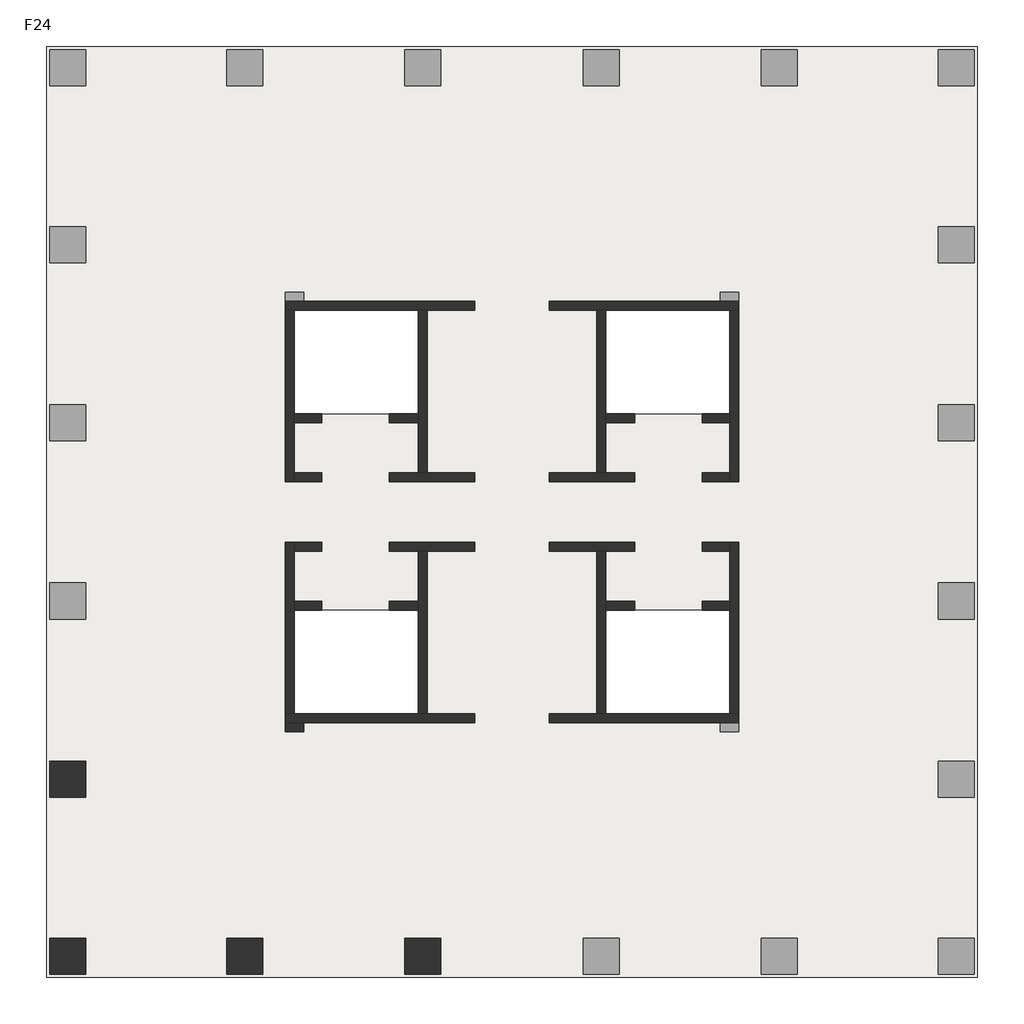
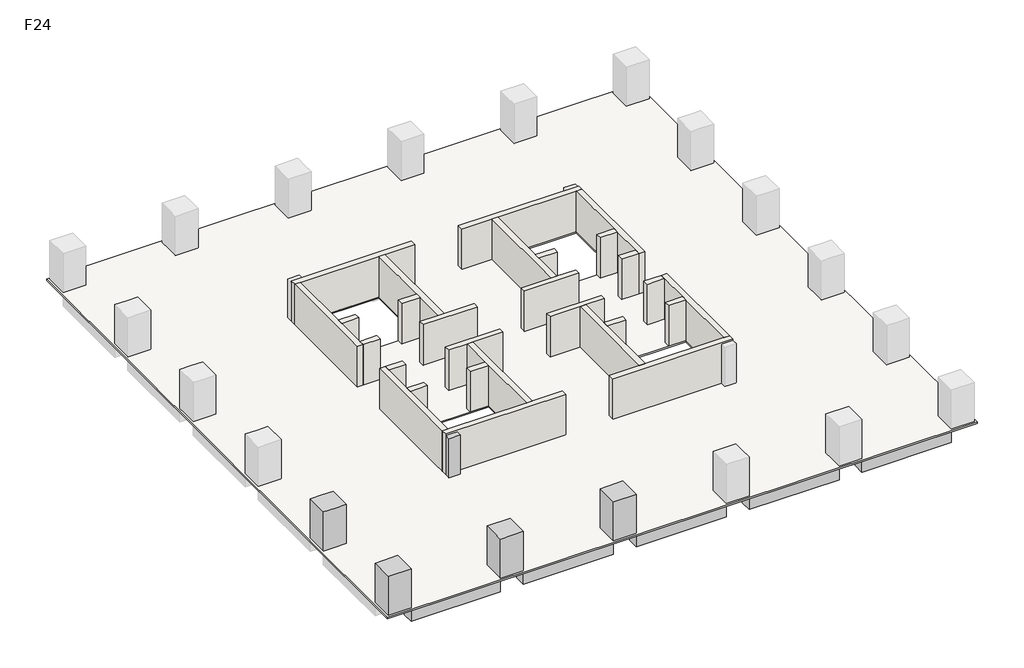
# One storey, part 1 of 2: 28 walls, 5 columns, 3 beams, 1 slab.
"""IFC4 building model written with IfcOpenShell, lengths in millimetres."""

from ifc_helpers import new_model, si_unit, frame, origin, place, context, project, spatial, polyline, outline, extrude, faceted_brep, element, save

model = new_model("IFC4")

# Units and contexts
model_context = context("Model", 3, world=origin())
ifc_project = project(units=[si_unit("LENGTHUNIT", "METRE", prefix="MILLI")], contexts=[model_context])

# Site, building, storey
site = spatial("IfcSite", under=ifc_project)
building = spatial("IfcBuilding", under=site)
storey = spatial("IfcBuildingStorey", under=building, Name="F24", Elevation=90000.0)

# Beams
placement = place(None, origin())
element("IfcBeam", 1, ObjectType="混凝土 - 矩形梁 : KL(5)-800x1000", at=placement, inside=storey, context=model_context, shape_type="SweptSolid", body=[
    extrude(outline(polyline([(-12472.6742169, -13948.9501342), (-12472.6742169, -13148.9501342), (-6222.6742169, -13148.9501342), (-6222.6742169, -13948.9501342), (-12472.6742169, -13948.9501342)])), frame((0.0, 0.0, 89000.0), z_axis=(0.0, 0.0, 1.0), x_axis=(1.0, 0.0, 0.0)), (0.0, 0.0, 1.0), 900.0),
    extrude(outline(polyline([(25327.3257831, -13148.9501342), (25327.3257831, -13948.9501342), (19077.3257831, -13948.9501342), (19077.3257831, -13148.9501342), (25327.3257831, -13148.9501342)])), frame((0.0, 0.0, 89000.0), z_axis=(0.0, 0.0, 1.0), x_axis=(1.0, 0.0, 0.0)), (0.0, 0.0, 1.0), 900.0),
    extrude(outline(polyline([(-4622.6742169, -13948.9501342), (-4622.6742169, -13148.9501342), (1677.3257831, -13148.9501342), (1677.3257831, -13948.9501342), (-4622.6742169, -13948.9501342)])), frame((0.0, 0.0, 89000.0), z_axis=(0.0, 0.0, 1.0), x_axis=(1.0, 0.0, 0.0)), (0.0, 0.0, 1.0), 900.0),
    extrude(outline(polyline([(3277.3257831, -13948.9501342), (3277.3257831, -13148.9501342), (9577.3257831, -13148.9501342), (9577.3257831, -13948.9501342), (3277.3257831, -13948.9501342)])), frame((0.0, 0.0, 89000.0), z_axis=(0.0, 0.0, 1.0), x_axis=(1.0, 0.0, 0.0)), (0.0, 0.0, 1.0), 900.0),
    extrude(outline(polyline([(11177.3257831, -13948.9501342), (11177.3257831, -13148.9501342), (17477.3257831, -13148.9501342), (17477.3257831, -13948.9501342), (11177.3257831, -13948.9501342)])), frame((0.0, 0.0, 89000.0), z_axis=(0.0, 0.0, 1.0), x_axis=(1.0, 0.0, 0.0)), (0.0, 0.0, 1.0), 900.0),
])
element("IfcBeam", 2, ObjectType="混凝土 - 矩形梁 : L1-800x500", at=placement, inside=storey, context=model_context, shape_type="Brep", body=[
    faceted_brep([(-12472.6742169, -5512.1353397, 89500.0), (-3746.9473979, -3341.556529, 89500.0), (-3173.6696907, -3198.9501342, 89500.0), (-3173.6696907, -3198.9501342, 89900.0), (-3746.9473979, -3341.556529, 89900.0), (-12472.6742169, -5512.1353397, 89900.0), (-3622.6742169, -3198.9501342, 89500.0), (-12472.6742169, -4687.7549784, 89500.0), (-3622.6742169, -2486.2624411, 89500.0), (-3622.6742169, -2798.9501342, 89500.0), (-12472.6742169, -4687.7549784, 89900.0), (-3622.6742169, -2486.2624411, 89900.0), (-3622.6742169, -3198.9501342, 89900.0)], [[[0, 1, 2, 3, 4, 5]], [[6, 2, 1, 0, 7, 8, 9]], [[8, 7, 10, 11]], [[2, 6, 12, 3]], [[9, 8, 11, 12, 6]], [[7, 0, 5, 10]], [[5, 4, 3, 12, 11, 10]]]),
])
element("IfcBeam", 3, ObjectType="混凝土 - 矩形梁 : L1-800x500", at=placement, inside=storey, context=model_context, shape_type="SweptSolid", body=[
    extrude(outline(polyline([(-3746.9473979, -3341.556529), (-3173.6696907, -3198.9501342), (-2898.7618154, -3198.9501342), (-4843.6893517, -12348.9501342), (-5661.5624638, -12348.9501342), (-3746.9473979, -3341.556529)])), frame((0.0, 0.0, 89500.0), z_axis=(0.0, 0.0, 1.0), x_axis=(1.0, 0.0, 0.0)), (0.0, 0.0, 1.0), 400.0),
])

# Columns
element("IfcColumn", 4, ObjectType="混凝土 - 矩形 - 柱 : Z1-1600x1600", at=placement, inside=storey, context=model_context, shape_type="Brep", body=[
    faceted_brep([(-12472.6742169, -4498.9501342, 90000.0), (-12472.6742169, -6098.9501342, 90000.0), (-14072.6742169, -6098.9501342, 90000.0), (-14072.6742169, -4498.9501342, 90000.0), (-12472.6742169, -4498.9501342, 92900.0), (-12472.6742169, -6098.9501342, 92900.0), (-13272.6742169, -6098.9501342, 92900.0), (-14072.6742169, -6098.9501342, 92900.0), (-14072.6742169, -6098.9501342, 92000.0), (-14072.6742169, -4498.9501342, 92900.0), (-14072.6742169, -4498.9501342, 92000.0), (-13272.6742169, -4498.9501342, 92900.0)], [[[0, 1, 2, 3]], [[1, 0, 4, 5]], [[2, 1, 5, 6, 7, 8]], [[3, 2, 8, 7, 9, 10]], [[0, 3, 10, 9, 11, 4]], [[5, 4, 11, 9, 7, 6]]]),
])
element("IfcColumn", 5, ObjectType="混凝土 - 矩形 - 柱 : Z1-1600x1600", at=placement, inside=storey, context=model_context, shape_type="SweptSolid", body=[
    extrude(outline(polyline([(-12472.6742169, -12348.9501342), (-12472.6742169, -13948.9501342), (-14072.6742169, -13948.9501342), (-14072.6742169, -12348.9501342), (-12472.6742169, -12348.9501342)])), frame((0.0, 0.0, 90000.0), z_axis=(0.0, 0.0, 1.0), x_axis=(1.0, 0.0, 0.0)), (0.0, 0.0, 1.0), 2900.0),
])
element("IfcColumn", 6, ObjectType="混凝土 - 矩形 - 柱 : Z1-1600x1600", at=placement, inside=storey, context=model_context, shape_type="Brep", body=[
    faceted_brep([(-4622.6742169, -12348.9501342, 90000.0), (-4622.6742169, -13948.9501342, 90000.0), (-6222.6742169, -13948.9501342, 90000.0), (-6222.6742169, -12348.9501342, 90000.0), (-4622.6742169, -12348.9501342, 92900.0), (-4622.6742169, -13148.9501342, 92900.0), (-4622.6742169, -13948.9501342, 92900.0), (-4622.6742169, -13948.9501342, 92000.0), (-6222.6742169, -13948.9501342, 92900.0), (-6222.6742169, -13948.9501342, 92000.0), (-6222.6742169, -13148.9501342, 92900.0), (-6222.6742169, -12348.9501342, 92900.0)], [[[0, 1, 2, 3]], [[1, 0, 4, 5, 6, 7]], [[2, 1, 7, 6, 8, 9]], [[3, 2, 9, 8, 10, 11]], [[0, 3, 11, 4]], [[6, 5, 4, 11, 10, 8]]]),
])
element("IfcColumn", 7, ObjectType="混凝土 - 矩形 - 柱 : Z1-1600x1600", at=placement, inside=storey, context=model_context, shape_type="Brep", body=[
    faceted_brep([(3277.3257831, -12348.9501342, 90000.0), (3277.3257831, -13948.9501342, 90000.0), (1677.3257831, -13948.9501342, 90000.0), (1677.3257831, -12348.9501342, 90000.0), (3277.3257831, -12348.9501342, 92900.0), (3277.3257831, -13148.9501342, 92900.0), (3277.3257831, -13948.9501342, 92900.0), (3277.3257831, -13948.9501342, 92000.0), (1677.3257831, -13948.9501342, 92900.0), (1677.3257831, -13948.9501342, 92000.0), (1677.3257831, -13148.9501342, 92900.0), (1677.3257831, -12348.9501342, 92900.0)], [[[0, 1, 2, 3]], [[1, 0, 4, 5, 6, 7]], [[2, 1, 7, 6, 8, 9]], [[3, 2, 9, 8, 10, 11]], [[0, 3, 11, 4]], [[6, 5, 4, 11, 10, 8]]]),
])
element("IfcColumn", 8, ObjectType="混凝土 - 矩形 - 柱 : Z2-800x800", at=placement, inside=storey, context=model_context, shape_type="SweptSolid", body=[
    extrude(outline(polyline([(-2822.6742169, -3198.9501342), (-3622.6742169, -3198.9501342), (-3622.6742169, -2798.9501342), (-2822.6742169, -2798.9501342), (-2822.6742169, -3198.9501342)])), frame((0.0, 0.0, 90000.0), z_axis=(0.0, 0.0, 1.0), x_axis=(1.0, 0.0, 0.0)), (0.0, 0.0, 1.0), 2900.0),
])

# Slab
element("IfcSlab", 9, ObjectType="LB-100", at=placement, inside=storey, context=model_context, shape_type="SweptSolid", body=[
    extrude(outline(polyline([(27077.3257831, 27201.0498658), (27077.3257831, -14085.2672073), (-14222.6742169, -14085.2672073), (-14222.6742169, 27201.0498658), (27077.3257831, 27201.0498658)]), holes=[polyline([(2277.3257831, 15501.0498658), (-3222.6742169, 15501.0498658), (-3222.6742169, 10901.0498658), (2277.3257831, 10901.0498658), (2277.3257831, 15501.0498658)]), polyline([(2277.3257831, 2201.0498658), (-3222.6742169, 2201.0498658), (-3222.6742169, -2398.9501342), (2277.3257831, -2398.9501342), (2277.3257831, 2201.0498658)]), polyline([(16077.3257831, 2201.0498658), (10577.3257831, 2201.0498658), (10577.3257831, -2398.9501342), (16077.3257831, -2398.9501342), (16077.3257831, 2201.0498658)]), polyline([(16077.3257831, 15501.0498658), (10577.3257831, 15501.0498658), (10577.3257831, 10901.0498658), (16077.3257831, 10901.0498658), (16077.3257831, 15501.0498658)])]), frame((0.0, 0.0, 89900.0), z_axis=(0.0, 0.0, 1.0), x_axis=(1.0, 0.0, 0.0)), (0.0, 0.0, 1.0), 100.0),
])

# Walls
element("IfcWall", 10, ObjectType="剪力墙-400", at=placement, inside=storey, context=model_context, shape_type="Brep", body=[
    faceted_brep([(-3622.6742169, 15501.0498658, 90000.0), (-3222.6742169, 15501.0498658, 90000.0), (2277.3257831, 15501.0498658, 90000.0), (2677.3257831, 15501.0498658, 90000.0), (4777.3257831, 15501.0498658, 90000.0), (4777.3257831, 15501.0498658, 93000.0), (2677.3257831, 15501.0498658, 93000.0), (2277.3257831, 15501.0498658, 93000.0), (-3222.6742169, 15501.0498658, 93000.0), (-3622.6742169, 15501.0498658, 93000.0), (-3622.6742169, 15901.0498658, 90000.0), (-3622.6742169, 15901.0498658, 92900.0), (-3622.6742169, 15901.0498658, 93000.0), (4777.3257831, 15901.0498658, 93000.0), (4777.3257831, 15901.0498658, 90000.0), (-2822.6742169, 15901.0498658, 90000.0)], [[[0, 1, 2, 3, 4, 5, 6, 7, 8, 9]], [[10, 11, 12, 13, 14, 15]], [[4, 3, 2, 1, 0, 10, 15, 14]], [[5, 4, 14, 13]], [[9, 8, 7, 6, 5, 13, 12]], [[0, 9, 12, 11, 10]]]),
])
element("IfcWall", 11, ObjectType="剪力墙-400", at=placement, inside=storey, context=model_context, shape_type="Brep", body=[
    faceted_brep([(2277.3257831, 15501.0498658, 90000.0), (2277.3257831, 10901.0498658, 90000.0), (2277.3257831, 10501.0498658, 90000.0), (2277.3257831, 8301.0498658, 90000.0), (2277.3257831, 8301.0498658, 93000.0), (2277.3257831, 10501.0498658, 93000.0), (2277.3257831, 10901.0498658, 93000.0), (2277.3257831, 15501.0498658, 93000.0), (2677.3257831, 15501.0498658, 90000.0), (2677.3257831, 15501.0498658, 93000.0), (2677.3257831, 8301.0498658, 93000.0), (2677.3257831, 8301.0498658, 90000.0)], [[[0, 1, 2, 3, 4, 5, 6, 7]], [[8, 9, 10, 11]], [[3, 2, 1, 0, 8, 11]], [[7, 6, 5, 4, 10, 9]], [[0, 7, 9, 8]], [[4, 3, 11, 10]]]),
])
element("IfcWall", 12, ObjectType="剪力墙-400", at=placement, inside=storey, context=model_context, shape_type="Brep", body=[
    faceted_brep([(-3622.6742169, 15501.0498658, 90000.0), (-3622.6742169, 7901.0498658, 90000.0), (-3622.6742169, 7901.0498658, 93000.0), (-3622.6742169, 15501.0498658, 93000.0), (-3222.6742169, 15501.0498658, 90000.0), (-3222.6742169, 15501.0498658, 93000.0), (-3222.6742169, 10901.0498658, 93000.0), (-3222.6742169, 10501.0498658, 93000.0), (-3222.6742169, 8301.0498658, 93000.0), (-3222.6742169, 7901.0498658, 93000.0), (-3222.6742169, 7901.0498658, 90000.0), (-3222.6742169, 8301.0498658, 90000.0), (-3222.6742169, 10501.0498658, 90000.0), (-3222.6742169, 10901.0498658, 90000.0)], [[[0, 1, 2, 3]], [[4, 5, 6, 7, 8, 9, 10, 11, 12, 13]], [[1, 0, 4, 13, 12, 11, 10]], [[3, 2, 9, 8, 7, 6, 5]], [[0, 3, 5, 4]], [[2, 1, 10, 9]]]),
])
element("IfcWall", 13, ObjectType="剪力墙-400", at=placement, inside=storey, context=model_context, shape_type="SweptSolid", body=[
    extrude(outline(polyline([(-2022.6742169, 7901.0498658), (-3222.6742169, 7901.0498658), (-3222.6742169, 8301.0498658), (-2022.6742169, 8301.0498658), (-2022.6742169, 7901.0498658)])), frame((0.0, 0.0, 90000.0), z_axis=(0.0, 0.0, 1.0), x_axis=(1.0, 0.0, 0.0)), (0.0, 0.0, 1.0), 3000.0),
])
element("IfcWall", 14, ObjectType="剪力墙-400", at=placement, inside=storey, context=model_context, shape_type="Brep", body=[
    faceted_brep([(977.3257831, 7901.0498658, 90000.0), (4777.3257831, 7901.0498658, 90000.0), (4777.3257831, 7901.0498658, 93000.0), (977.3257831, 7901.0498658, 93000.0), (977.3257831, 8301.0498658, 90000.0), (977.3257831, 8301.0498658, 93000.0), (2277.3257831, 8301.0498658, 93000.0), (2677.3257831, 8301.0498658, 93000.0), (4777.3257831, 8301.0498658, 93000.0), (4777.3257831, 8301.0498658, 90000.0), (2677.3257831, 8301.0498658, 90000.0), (2277.3257831, 8301.0498658, 90000.0)], [[[0, 1, 2, 3]], [[4, 5, 6, 7, 8, 9, 10, 11]], [[1, 0, 4, 11, 10, 9]], [[2, 1, 9, 8]], [[3, 2, 8, 7, 6, 5]], [[0, 3, 5, 4]]]),
])
element("IfcWall", 15, ObjectType="剪力墙-400", at=placement, inside=storey, context=model_context, shape_type="SweptSolid", body=[
    extrude(outline(polyline([(-2022.6742169, 10501.0498658), (-3222.6742169, 10501.0498658), (-3222.6742169, 10901.0498658), (-2022.6742169, 10901.0498658), (-2022.6742169, 10501.0498658)])), frame((0.0, 0.0, 90000.0), z_axis=(0.0, 0.0, 1.0), x_axis=(1.0, 0.0, 0.0)), (0.0, 0.0, 1.0), 3000.0),
])
element("IfcWall", 16, ObjectType="剪力墙-400", at=placement, inside=storey, context=model_context, shape_type="SweptSolid", body=[
    extrude(outline(polyline([(2277.3257831, 10501.0498658), (977.3257831, 10501.0498658), (977.3257831, 10901.0498658), (2277.3257831, 10901.0498658), (2277.3257831, 10501.0498658)])), frame((0.0, 0.0, 90000.0), z_axis=(0.0, 0.0, 1.0), x_axis=(1.0, 0.0, 0.0)), (0.0, 0.0, 1.0), 3000.0),
])
element("IfcWall", 17, ObjectType="剪力墙-400", at=placement, inside=storey, context=model_context, shape_type="Brep", body=[
    faceted_brep([(16477.3257831, 15901.0498658, 90000.0), (15677.3257831, 15901.0498658, 90000.0), (8077.3257831, 15901.0498658, 90000.0), (8077.3257831, 15901.0498658, 93000.0), (16477.3257831, 15901.0498658, 93000.0), (16477.3257831, 15901.0498658, 92900.0), (16477.3257831, 15501.0498658, 90000.0), (16477.3257831, 15501.0498658, 93000.0), (16077.3257831, 15501.0498658, 93000.0), (10577.3257831, 15501.0498658, 93000.0), (10177.3257831, 15501.0498658, 93000.0), (8077.3257831, 15501.0498658, 93000.0), (8077.3257831, 15501.0498658, 90000.0), (10177.3257831, 15501.0498658, 90000.0), (10577.3257831, 15501.0498658, 90000.0), (16077.3257831, 15501.0498658, 90000.0)], [[[0, 1, 2, 3, 4, 5]], [[6, 7, 8, 9, 10, 11, 12, 13, 14, 15]], [[2, 1, 0, 6, 15, 14, 13, 12]], [[3, 2, 12, 11]], [[4, 3, 11, 10, 9, 8, 7]], [[0, 5, 4, 7, 6]]]),
])
element("IfcWall", 18, ObjectType="剪力墙-400", at=placement, inside=storey, context=model_context, shape_type="Brep", body=[
    faceted_brep([(10177.3257831, 15501.0498658, 90000.0), (10177.3257831, 8301.0498658, 90000.0), (10177.3257831, 8301.0498658, 93000.0), (10177.3257831, 15501.0498658, 93000.0), (10577.3257831, 15501.0498658, 90000.0), (10577.3257831, 15501.0498658, 93000.0), (10577.3257831, 10901.0498658, 93000.0), (10577.3257831, 10501.0498658, 93000.0), (10577.3257831, 8301.0498658, 93000.0), (10577.3257831, 8301.0498658, 90000.0), (10577.3257831, 10501.0498658, 90000.0), (10577.3257831, 10901.0498658, 90000.0)], [[[0, 1, 2, 3]], [[4, 5, 6, 7, 8, 9, 10, 11]], [[1, 0, 4, 11, 10, 9]], [[3, 2, 8, 7, 6, 5]], [[0, 3, 5, 4]], [[2, 1, 9, 8]]]),
])
element("IfcWall", 19, ObjectType="剪力墙-400", at=placement, inside=storey, context=model_context, shape_type="Brep", body=[
    faceted_brep([(16077.3257831, 15501.0498658, 90000.0), (16077.3257831, 10901.0498658, 90000.0), (16077.3257831, 10501.0498658, 90000.0), (16077.3257831, 8301.0498658, 90000.0), (16077.3257831, 7901.0498658, 90000.0), (16077.3257831, 7901.0498658, 93000.0), (16077.3257831, 8301.0498658, 93000.0), (16077.3257831, 10501.0498658, 93000.0), (16077.3257831, 10901.0498658, 93000.0), (16077.3257831, 15501.0498658, 93000.0), (16477.3257831, 15501.0498658, 90000.0), (16477.3257831, 15501.0498658, 93000.0), (16477.3257831, 7901.0498658, 93000.0), (16477.3257831, 7901.0498658, 90000.0)], [[[0, 1, 2, 3, 4, 5, 6, 7, 8, 9]], [[10, 11, 12, 13]], [[4, 3, 2, 1, 0, 10, 13]], [[9, 8, 7, 6, 5, 12, 11]], [[0, 9, 11, 10]], [[5, 4, 13, 12]]]),
])
element("IfcWall", 20, ObjectType="剪力墙-400", at=placement, inside=storey, context=model_context, shape_type="SweptSolid", body=[
    extrude(outline(polyline([(14877.3257831, 8301.0498658), (16077.3257831, 8301.0498658), (16077.3257831, 7901.0498658), (14877.3257831, 7901.0498658), (14877.3257831, 8301.0498658)])), frame((0.0, 0.0, 90000.0), z_axis=(0.0, 0.0, 1.0), x_axis=(1.0, 0.0, 0.0)), (0.0, 0.0, 1.0), 3000.0),
])
element("IfcWall", 21, ObjectType="剪力墙-400", at=placement, inside=storey, context=model_context, shape_type="Brep", body=[
    faceted_brep([(11877.3257831, 8301.0498658, 90000.0), (10577.3257831, 8301.0498658, 90000.0), (10177.3257831, 8301.0498658, 90000.0), (8077.3257831, 8301.0498658, 90000.0), (8077.3257831, 8301.0498658, 93000.0), (10177.3257831, 8301.0498658, 93000.0), (10577.3257831, 8301.0498658, 93000.0), (11877.3257831, 8301.0498658, 93000.0), (11877.3257831, 7901.0498658, 90000.0), (11877.3257831, 7901.0498658, 93000.0), (8077.3257831, 7901.0498658, 93000.0), (8077.3257831, 7901.0498658, 90000.0)], [[[0, 1, 2, 3, 4, 5, 6, 7]], [[8, 9, 10, 11]], [[3, 2, 1, 0, 8, 11]], [[4, 3, 11, 10]], [[7, 6, 5, 4, 10, 9]], [[0, 7, 9, 8]]]),
])
element("IfcWall", 22, ObjectType="剪力墙-400", at=placement, inside=storey, context=model_context, shape_type="SweptSolid", body=[
    extrude(outline(polyline([(14877.3257831, 10901.0498658), (16077.3257831, 10901.0498658), (16077.3257831, 10501.0498658), (14877.3257831, 10501.0498658), (14877.3257831, 10901.0498658)])), frame((0.0, 0.0, 90000.0), z_axis=(0.0, 0.0, 1.0), x_axis=(1.0, 0.0, 0.0)), (0.0, 0.0, 1.0), 3000.0),
])
element("IfcWall", 23, ObjectType="剪力墙-400", at=placement, inside=storey, context=model_context, shape_type="SweptSolid", body=[
    extrude(outline(polyline([(10577.3257831, 10901.0498658), (11877.3257831, 10901.0498658), (11877.3257831, 10501.0498658), (10577.3257831, 10501.0498658), (10577.3257831, 10901.0498658)])), frame((0.0, 0.0, 90000.0), z_axis=(0.0, 0.0, 1.0), x_axis=(1.0, 0.0, 0.0)), (0.0, 0.0, 1.0), 3000.0),
])
element("IfcWall", 24, ObjectType="剪力墙-400", at=placement, inside=storey, context=model_context, shape_type="Brep", body=[
    faceted_brep([(-3622.6742169, -2798.9501342, 90000.0), (-2822.6742169, -2798.9501342, 90000.0), (4777.3257831, -2798.9501342, 90000.0), (4777.3257831, -2798.9501342, 93000.0), (-3622.6742169, -2798.9501342, 93000.0), (-3622.6742169, -2798.9501342, 92900.0), (-3622.6742169, -2398.9501342, 90000.0), (-3622.6742169, -2398.9501342, 93000.0), (-3222.6742169, -2398.9501342, 93000.0), (2277.3257831, -2398.9501342, 93000.0), (2677.3257831, -2398.9501342, 93000.0), (4777.3257831, -2398.9501342, 93000.0), (4777.3257831, -2398.9501342, 90000.0), (2677.3257831, -2398.9501342, 90000.0), (2277.3257831, -2398.9501342, 90000.0), (-3222.6742169, -2398.9501342, 90000.0)], [[[0, 1, 2, 3, 4, 5]], [[6, 7, 8, 9, 10, 11, 12, 13, 14, 15]], [[2, 1, 0, 6, 15, 14, 13, 12]], [[3, 2, 12, 11]], [[4, 3, 11, 10, 9, 8, 7]], [[0, 5, 4, 7, 6]]]),
])
element("IfcWall", 25, ObjectType="剪力墙-400", at=placement, inside=storey, context=model_context, shape_type="Brep", body=[
    faceted_brep([(2677.3257831, -2398.9501342, 90000.0), (2677.3257831, 4801.0498658, 90000.0), (2677.3257831, 4801.0498658, 93000.0), (2677.3257831, -2398.9501342, 93000.0), (2277.3257831, -2398.9501342, 90000.0), (2277.3257831, -2398.9501342, 93000.0), (2277.3257831, 2201.0498658, 93000.0), (2277.3257831, 2601.0498658, 93000.0), (2277.3257831, 4801.0498658, 93000.0), (2277.3257831, 4801.0498658, 90000.0), (2277.3257831, 2601.0498658, 90000.0), (2277.3257831, 2201.0498658, 90000.0)], [[[0, 1, 2, 3]], [[4, 5, 6, 7, 8, 9, 10, 11]], [[1, 0, 4, 11, 10, 9]], [[3, 2, 8, 7, 6, 5]], [[0, 3, 5, 4]], [[2, 1, 9, 8]]]),
])
element("IfcWall", 26, ObjectType="剪力墙-400", at=placement, inside=storey, context=model_context, shape_type="Brep", body=[
    faceted_brep([(-3222.6742169, -2398.9501342, 90000.0), (-3222.6742169, 2201.0498658, 90000.0), (-3222.6742169, 2601.0498658, 90000.0), (-3222.6742169, 4801.0498658, 90000.0), (-3222.6742169, 5201.0498658, 90000.0), (-3222.6742169, 5201.0498658, 93000.0), (-3222.6742169, 4801.0498658, 93000.0), (-3222.6742169, 2601.0498658, 93000.0), (-3222.6742169, 2201.0498658, 93000.0), (-3222.6742169, -2398.9501342, 93000.0), (-3622.6742169, -2398.9501342, 90000.0), (-3622.6742169, -2398.9501342, 93000.0), (-3622.6742169, 5201.0498658, 93000.0), (-3622.6742169, 5201.0498658, 90000.0)], [[[0, 1, 2, 3, 4, 5, 6, 7, 8, 9]], [[10, 11, 12, 13]], [[4, 3, 2, 1, 0, 10, 13]], [[9, 8, 7, 6, 5, 12, 11]], [[0, 9, 11, 10]], [[5, 4, 13, 12]]]),
])
element("IfcWall", 27, ObjectType="剪力墙-400", at=placement, inside=storey, context=model_context, shape_type="SweptSolid", body=[
    extrude(outline(polyline([(-2022.6742169, 4801.0498658), (-3222.6742169, 4801.0498658), (-3222.6742169, 5201.0498658), (-2022.6742169, 5201.0498658), (-2022.6742169, 4801.0498658)])), frame((0.0, 0.0, 90000.0), z_axis=(0.0, 0.0, 1.0), x_axis=(1.0, 0.0, 0.0)), (0.0, 0.0, 1.0), 3000.0),
])
element("IfcWall", 28, ObjectType="剪力墙-400", at=placement, inside=storey, context=model_context, shape_type="Brep", body=[
    faceted_brep([(977.3257831, 4801.0498658, 90000.0), (2277.3257831, 4801.0498658, 90000.0), (2677.3257831, 4801.0498658, 90000.0), (4777.3257831, 4801.0498658, 90000.0), (4777.3257831, 4801.0498658, 93000.0), (2677.3257831, 4801.0498658, 93000.0), (2277.3257831, 4801.0498658, 93000.0), (977.3257831, 4801.0498658, 93000.0), (977.3257831, 5201.0498658, 90000.0), (977.3257831, 5201.0498658, 93000.0), (4777.3257831, 5201.0498658, 93000.0), (4777.3257831, 5201.0498658, 90000.0)], [[[0, 1, 2, 3, 4, 5, 6, 7]], [[8, 9, 10, 11]], [[3, 2, 1, 0, 8, 11]], [[4, 3, 11, 10]], [[7, 6, 5, 4, 10, 9]], [[0, 7, 9, 8]]]),
])
element("IfcWall", 29, ObjectType="剪力墙-400", at=placement, inside=storey, context=model_context, shape_type="SweptSolid", body=[
    extrude(outline(polyline([(-2022.6742169, 2201.0498658), (-3222.6742169, 2201.0498658), (-3222.6742169, 2601.0498658), (-2022.6742169, 2601.0498658), (-2022.6742169, 2201.0498658)])), frame((0.0, 0.0, 90000.0), z_axis=(0.0, 0.0, 1.0), x_axis=(1.0, 0.0, 0.0)), (0.0, 0.0, 1.0), 3000.0),
])
element("IfcWall", 30, ObjectType="剪力墙-400", at=placement, inside=storey, context=model_context, shape_type="SweptSolid", body=[
    extrude(outline(polyline([(2277.3257831, 2201.0498658), (977.3257831, 2201.0498658), (977.3257831, 2601.0498658), (2277.3257831, 2601.0498658), (2277.3257831, 2201.0498658)])), frame((0.0, 0.0, 90000.0), z_axis=(0.0, 0.0, 1.0), x_axis=(1.0, 0.0, 0.0)), (0.0, 0.0, 1.0), 3000.0),
])
element("IfcWall", 31, ObjectType="剪力墙-400", at=placement, inside=storey, context=model_context, shape_type="Brep", body=[
    faceted_brep([(16477.3257831, -2398.9501342, 90000.0), (16077.3257831, -2398.9501342, 90000.0), (10577.3257831, -2398.9501342, 90000.0), (10177.3257831, -2398.9501342, 90000.0), (8077.3257831, -2398.9501342, 90000.0), (8077.3257831, -2398.9501342, 93000.0), (10177.3257831, -2398.9501342, 93000.0), (10577.3257831, -2398.9501342, 93000.0), (16077.3257831, -2398.9501342, 93000.0), (16477.3257831, -2398.9501342, 93000.0), (16477.3257831, -2798.9501342, 90000.0), (16477.3257831, -2798.9501342, 92900.0), (16477.3257831, -2798.9501342, 93000.0), (8077.3257831, -2798.9501342, 93000.0), (8077.3257831, -2798.9501342, 90000.0), (15677.3257831, -2798.9501342, 90000.0)], [[[0, 1, 2, 3, 4, 5, 6, 7, 8, 9]], [[10, 11, 12, 13, 14, 15]], [[4, 3, 2, 1, 0, 10, 15, 14]], [[5, 4, 14, 13]], [[9, 8, 7, 6, 5, 13, 12]], [[0, 9, 12, 11, 10]]]),
])
element("IfcWall", 32, ObjectType="剪力墙-400", at=placement, inside=storey, context=model_context, shape_type="Brep", body=[
    faceted_brep([(10577.3257831, -2398.9501342, 90000.0), (10577.3257831, 2201.0498658, 90000.0), (10577.3257831, 2601.0498658, 90000.0), (10577.3257831, 4801.0498658, 90000.0), (10577.3257831, 4801.0498658, 93000.0), (10577.3257831, 2601.0498658, 93000.0), (10577.3257831, 2201.0498658, 93000.0), (10577.3257831, -2398.9501342, 93000.0), (10177.3257831, -2398.9501342, 90000.0), (10177.3257831, -2398.9501342, 93000.0), (10177.3257831, 4801.0498658, 93000.0), (10177.3257831, 4801.0498658, 90000.0)], [[[0, 1, 2, 3, 4, 5, 6, 7]], [[8, 9, 10, 11]], [[3, 2, 1, 0, 8, 11]], [[7, 6, 5, 4, 10, 9]], [[0, 7, 9, 8]], [[4, 3, 11, 10]]]),
])
element("IfcWall", 33, ObjectType="剪力墙-400", at=placement, inside=storey, context=model_context, shape_type="Brep", body=[
    faceted_brep([(16477.3257831, -2398.9501342, 90000.0), (16477.3257831, 5201.0498658, 90000.0), (16477.3257831, 5201.0498658, 93000.0), (16477.3257831, -2398.9501342, 93000.0), (16077.3257831, -2398.9501342, 90000.0), (16077.3257831, -2398.9501342, 93000.0), (16077.3257831, 2201.0498658, 93000.0), (16077.3257831, 2601.0498658, 93000.0), (16077.3257831, 4801.0498658, 93000.0), (16077.3257831, 5201.0498658, 93000.0), (16077.3257831, 5201.0498658, 90000.0), (16077.3257831, 4801.0498658, 90000.0), (16077.3257831, 2601.0498658, 90000.0), (16077.3257831, 2201.0498658, 90000.0)], [[[0, 1, 2, 3]], [[4, 5, 6, 7, 8, 9, 10, 11, 12, 13]], [[1, 0, 4, 13, 12, 11, 10]], [[3, 2, 9, 8, 7, 6, 5]], [[0, 3, 5, 4]], [[2, 1, 10, 9]]]),
])
element("IfcWall", 34, ObjectType="剪力墙-400", at=placement, inside=storey, context=model_context, shape_type="SweptSolid", body=[
    extrude(outline(polyline([(14877.3257831, 5201.0498658), (16077.3257831, 5201.0498658), (16077.3257831, 4801.0498658), (14877.3257831, 4801.0498658), (14877.3257831, 5201.0498658)])), frame((0.0, 0.0, 90000.0), z_axis=(0.0, 0.0, 1.0), x_axis=(1.0, 0.0, 0.0)), (0.0, 0.0, 1.0), 3000.0),
])
element("IfcWall", 35, ObjectType="剪力墙-400", at=placement, inside=storey, context=model_context, shape_type="Brep", body=[
    faceted_brep([(11877.3257831, 5201.0498658, 90000.0), (8077.3257831, 5201.0498658, 90000.0), (8077.3257831, 5201.0498658, 93000.0), (11877.3257831, 5201.0498658, 93000.0), (11877.3257831, 4801.0498658, 90000.0), (11877.3257831, 4801.0498658, 93000.0), (10577.3257831, 4801.0498658, 93000.0), (10177.3257831, 4801.0498658, 93000.0), (8077.3257831, 4801.0498658, 93000.0), (8077.3257831, 4801.0498658, 90000.0), (10177.3257831, 4801.0498658, 90000.0), (10577.3257831, 4801.0498658, 90000.0)], [[[0, 1, 2, 3]], [[4, 5, 6, 7, 8, 9, 10, 11]], [[1, 0, 4, 11, 10, 9]], [[2, 1, 9, 8]], [[3, 2, 8, 7, 6, 5]], [[0, 3, 5, 4]]]),
])
element("IfcWall", 36, ObjectType="剪力墙-400", at=placement, inside=storey, context=model_context, shape_type="SweptSolid", body=[
    extrude(outline(polyline([(14877.3257831, 2601.0498658), (16077.3257831, 2601.0498658), (16077.3257831, 2201.0498658), (14877.3257831, 2201.0498658), (14877.3257831, 2601.0498658)])), frame((0.0, 0.0, 90000.0), z_axis=(0.0, 0.0, 1.0), x_axis=(1.0, 0.0, 0.0)), (0.0, 0.0, 1.0), 3000.0),
])
element("IfcWall", 37, ObjectType="剪力墙-400", at=placement, inside=storey, context=model_context, shape_type="SweptSolid", body=[
    extrude(outline(polyline([(10577.3257831, 2601.0498658), (11877.3257831, 2601.0498658), (11877.3257831, 2201.0498658), (10577.3257831, 2201.0498658), (10577.3257831, 2601.0498658)])), frame((0.0, 0.0, 90000.0), z_axis=(0.0, 0.0, 1.0), x_axis=(1.0, 0.0, 0.0)), (0.0, 0.0, 1.0), 3000.0),
])

save(model, "model.ifc")
